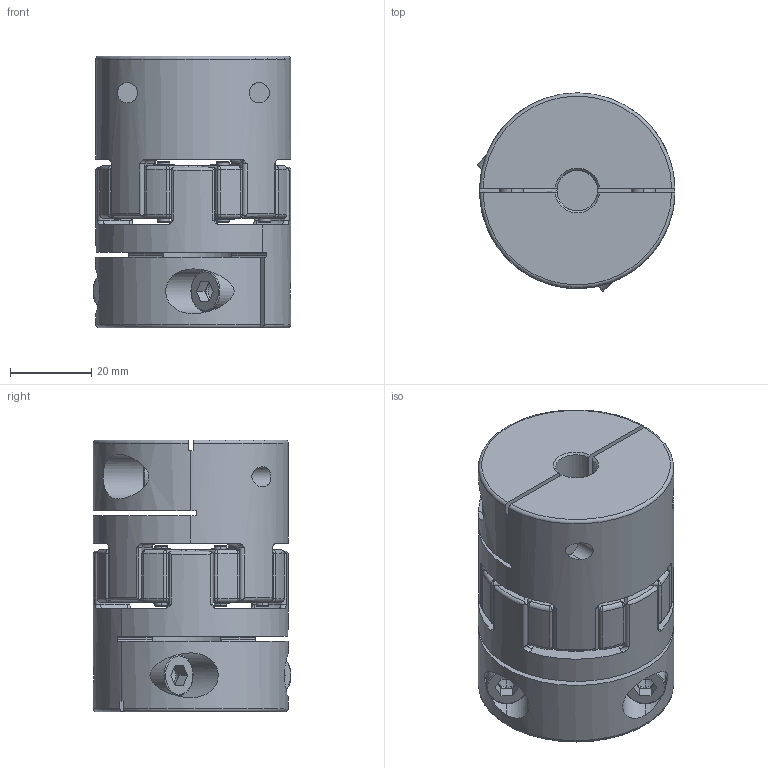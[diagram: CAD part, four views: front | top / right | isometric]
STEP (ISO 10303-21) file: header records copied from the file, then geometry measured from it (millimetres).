
FILE_DESCRIPTION (( 'STEP AP203' ), '1' );
FILE_NAME ('SJC-48C.STEP', '2017-03-22T07:03:36', ( '' ), ( '' ), 'SwSTEP 2.0', 'SolidWorks 2017', '' );
FILE_SCHEMA (( 'CONFIG_CONTROL_DESIGN' ));
Length unit declared in the file: millimetre
Products named in the file (1): SJC-48C
Bounding box: 48.64 x 48.64 x 66.8 mm (x, y, z)
Volume: 91270.4 mm3; surface area: 31433.3 mm2
Topology: 1 solids, 1 shells, 1037 faces, 2752 edges, 1690 vertices
Faces by surface type: bspline 356, torus 234, cylinder 225, plane 166, cone 56
Entity records: 42761 total; most frequent: CARTESIAN_POINT 19372, ORIENTED_EDGE 5424, DIRECTION 4074, EDGE_CURVE 2712, VERTEX_POINT 1690, AXIS2_PLACEMENT_3D 1600, EDGE_LOOP 1090, FACE_OUTER_BOUND 1037
